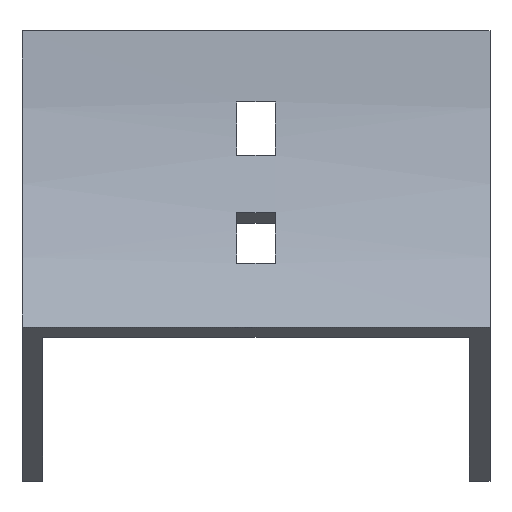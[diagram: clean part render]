
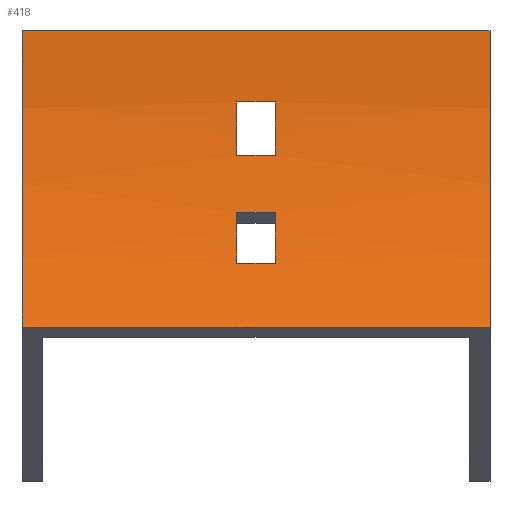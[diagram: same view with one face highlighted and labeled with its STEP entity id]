
A CAD part, front view. The second image highlights one B-rep face of the part: STEP entity #418.
In plain terms, the highlighted cylindrical face has radius 100 mm (diameter 200 mm), a partial arc.
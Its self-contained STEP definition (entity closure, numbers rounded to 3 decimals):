
#13 = CARTESIAN_POINT ( 'NONE',  ( -3.25, -8.023, -39.246 ) ) ;
#24 = CARTESIAN_POINT ( 'NONE',  ( -3.25, -4.829, -30.699 ) ) ;
#26 = DIRECTION ( 'NONE',  ( -1., 0., 0. ) ) ;
#35 = VECTOR ( 'NONE', #742, 1000. ) ;
#41 = DIRECTION ( 'NONE',  ( -1., 0., 0. ) ) ;
#50 = DIRECTION ( 'NONE',  ( -1., 0., 0. ) ) ;
#53 = CARTESIAN_POINT ( 'NONE',  ( 39.5, -13.397, -50. ) ) ;
#71 = EDGE_CURVE ( 'NONE', #380, #452, #635, .T. ) ;
#72 = ORIENTED_EDGE ( 'NONE', *, *, #889, .F. ) ;
#77 = CARTESIAN_POINT ( 'NONE',  ( 39.5, 0., 0. ) ) ;
#78 = VERTEX_POINT ( 'NONE', #562 ) ;
#81 = DIRECTION ( 'NONE',  ( -1., 0., 0. ) ) ;
#88 = VERTEX_POINT ( 'NONE', #24 ) ;
#95 = DIRECTION ( 'NONE',  ( 0., 0., 1. ) ) ;
#98 = ORIENTED_EDGE ( 'NONE', *, *, #122, .F. ) ;
#106 = EDGE_CURVE ( 'NONE', #360, #110, #357, .T. ) ;
#110 = VERTEX_POINT ( 'NONE', #532 ) ;
#122 = EDGE_CURVE ( 'NONE', #799, #996, #1080, .T. ) ;
#131 = CYLINDRICAL_SURFACE ( 'NONE', #377, 100. ) ;
#133 = LINE ( 'NONE', #483, #35 ) ;
#164 = CIRCLE ( 'NONE', #940, 100. ) ;
#177 = CARTESIAN_POINT ( 'NONE',  ( 39.5, -100., 0. ) ) ;
#181 = CIRCLE ( 'NONE', #1022, 100. ) ;
#187 = DIRECTION ( 'NONE',  ( 1., 0., 0. ) ) ;
#188 = AXIS2_PLACEMENT_3D ( 'NONE', #1113, #41, #1103 ) ;
#215 = ORIENTED_EDGE ( 'NONE', *, *, #716, .F. ) ;
#216 = FACE_BOUND ( 'NONE', #972, .T. ) ;
#220 = VECTOR ( 'NONE', #326, 1000. ) ;
#246 = LINE ( 'NONE', #53, #745 ) ;
#264 = VECTOR ( 'NONE', #286, 1000. ) ;
#268 = CARTESIAN_POINT ( 'NONE',  ( 3.25, -100., 0. ) ) ;
#278 = CARTESIAN_POINT ( 'NONE',  ( 39.5, -8.023, -39.246 ) ) ;
#279 = CARTESIAN_POINT ( 'NONE',  ( 3.25, -2.23, -21. ) ) ;
#286 = DIRECTION ( 'NONE',  ( 1., 0., 0. ) ) ;
#299 = ORIENTED_EDGE ( 'NONE', *, *, #463, .F. ) ;
#305 = ORIENTED_EDGE ( 'NONE', *, *, #845, .T. ) ;
#316 = DIRECTION ( 'NONE',  ( 1., 0., 0. ) ) ;
#321 = CARTESIAN_POINT ( 'NONE',  ( 3.25, -100., 0. ) ) ;
#322 = DIRECTION ( 'NONE',  ( -1., 0., 0. ) ) ;
#326 = DIRECTION ( 'NONE',  ( -1., 0., 0. ) ) ;
#352 = CIRCLE ( 'NONE', #652, 100. ) ;
#357 = CIRCLE ( 'NONE', #1006, 100. ) ;
#360 = VERTEX_POINT ( 'NONE', #619 ) ;
#362 = DIRECTION ( 'NONE',  ( 1., 0., 0. ) ) ;
#366 = CARTESIAN_POINT ( 'NONE',  ( 3.25, -4.829, -30.699 ) ) ;
#377 = AXIS2_PLACEMENT_3D ( 'NONE', #486, #649, #401 ) ;
#379 = CARTESIAN_POINT ( 'NONE',  ( -3.25, -2.23, -21. ) ) ;
#380 = VERTEX_POINT ( 'NONE', #793 ) ;
#401 = DIRECTION ( 'NONE',  ( 0., 0., 1. ) ) ;
#418 = ADVANCED_FACE ( 'NONE', ( #839, #216, #574 ), #131, .F. ) ;
#444 = VECTOR ( 'NONE', #50, 1000. ) ;
#452 = VERTEX_POINT ( 'NONE', #1000 ) ;
#457 = ORIENTED_EDGE ( 'NONE', *, *, #106, .F. ) ;
#463 = EDGE_CURVE ( 'NONE', #88, #799, #701, .T. ) ;
#483 = CARTESIAN_POINT ( 'NONE',  ( 39.5, -4.829, -30.699 ) ) ;
#486 = CARTESIAN_POINT ( 'NONE',  ( 39.5, -100., 0. ) ) ;
#491 = ORIENTED_EDGE ( 'NONE', *, *, #522, .T. ) ;
#504 = EDGE_CURVE ( 'NONE', #530, #380, #1136, .T. ) ;
#522 = EDGE_CURVE ( 'NONE', #1126, #78, #181, .T. ) ;
#530 = VERTEX_POINT ( 'NONE', #379 ) ;
#532 = CARTESIAN_POINT ( 'NONE',  ( 39.5, -13.397, -50. ) ) ;
#543 = DIRECTION ( 'NONE',  ( 0., 0., 1. ) ) ;
#562 = CARTESIAN_POINT ( 'NONE',  ( -39.5, -13.397, -50. ) ) ;
#571 = CARTESIAN_POINT ( 'NONE',  ( 3.25, -8.023, -39.246 ) ) ;
#574 = FACE_BOUND ( 'NONE', #921, .T. ) ;
#608 = EDGE_CURVE ( 'NONE', #360, #1126, #871, .T. ) ;
#619 = CARTESIAN_POINT ( 'NONE',  ( 39.5, 0., 0. ) ) ;
#626 = EDGE_CURVE ( 'NONE', #110, #78, #246, .T. ) ;
#635 = LINE ( 'NONE', #714, #264 ) ;
#649 = DIRECTION ( 'NONE',  ( -1., 0., 0. ) ) ;
#652 = AXIS2_PLACEMENT_3D ( 'NONE', #321, #81, #681 ) ;
#657 = DIRECTION ( 'NONE',  ( 0., 0., 1. ) ) ;
#666 = CARTESIAN_POINT ( 'NONE',  ( -3.25, -100., 0. ) ) ;
#681 = DIRECTION ( 'NONE',  ( 0., 0., -1. ) ) ;
#684 = VERTEX_POINT ( 'NONE', #366 ) ;
#698 = VERTEX_POINT ( 'NONE', #279 ) ;
#701 = CIRCLE ( 'NONE', #188, 100. ) ;
#709 = AXIS2_PLACEMENT_3D ( 'NONE', #666, #316, #657 ) ;
#714 = CARTESIAN_POINT ( 'NONE',  ( 39.5, -0.723, -12. ) ) ;
#716 = EDGE_CURVE ( 'NONE', #996, #684, #164, .T. ) ;
#738 = DIRECTION ( 'NONE',  ( -1., 0., 0. ) ) ;
#742 = DIRECTION ( 'NONE',  ( -1., 0., 0. ) ) ;
#745 = VECTOR ( 'NONE', #322, 1000. ) ;
#775 = ORIENTED_EDGE ( 'NONE', *, *, #1035, .T. ) ;
#793 = CARTESIAN_POINT ( 'NONE',  ( -3.25, -0.723, -12. ) ) ;
#799 = VERTEX_POINT ( 'NONE', #13 ) ;
#800 = ORIENTED_EDGE ( 'NONE', *, *, #626, .F. ) ;
#808 = VECTOR ( 'NONE', #187, 1000. ) ;
#812 = CARTESIAN_POINT ( 'NONE',  ( -39.5, 0., 0. ) ) ;
#839 = FACE_OUTER_BOUND ( 'NONE', #987, .T. ) ;
#845 = EDGE_CURVE ( 'NONE', #698, #530, #930, .T. ) ;
#871 = LINE ( 'NONE', #77, #220 ) ;
#889 = EDGE_CURVE ( 'NONE', #684, #88, #133, .T. ) ;
#906 = CARTESIAN_POINT ( 'NONE',  ( -39.5, -100., 0. ) ) ;
#916 = DIRECTION ( 'NONE',  ( 0., 0., 1. ) ) ;
#921 = EDGE_LOOP ( 'NONE', ( #299, #72, #215, #98 ) ) ;
#930 = LINE ( 'NONE', #1044, #444 ) ;
#940 = AXIS2_PLACEMENT_3D ( 'NONE', #268, #362, #543 ) ;
#972 = EDGE_LOOP ( 'NONE', ( #305, #1039, #1075, #775 ) ) ;
#987 = EDGE_LOOP ( 'NONE', ( #491, #800, #457, #1117 ) ) ;
#996 = VERTEX_POINT ( 'NONE', #571 ) ;
#1000 = CARTESIAN_POINT ( 'NONE',  ( 3.25, -0.723, -12. ) ) ;
#1006 = AXIS2_PLACEMENT_3D ( 'NONE', #177, #738, #95 ) ;
#1022 = AXIS2_PLACEMENT_3D ( 'NONE', #906, #26, #916 ) ;
#1035 = EDGE_CURVE ( 'NONE', #452, #698, #352, .T. ) ;
#1039 = ORIENTED_EDGE ( 'NONE', *, *, #504, .T. ) ;
#1044 = CARTESIAN_POINT ( 'NONE',  ( 39.5, -2.23, -21. ) ) ;
#1075 = ORIENTED_EDGE ( 'NONE', *, *, #71, .T. ) ;
#1080 = LINE ( 'NONE', #278, #808 ) ;
#1103 = DIRECTION ( 'NONE',  ( 0., 0., -1. ) ) ;
#1113 = CARTESIAN_POINT ( 'NONE',  ( -3.25, -100., 0. ) ) ;
#1117 = ORIENTED_EDGE ( 'NONE', *, *, #608, .T. ) ;
#1126 = VERTEX_POINT ( 'NONE', #812 ) ;
#1136 = CIRCLE ( 'NONE', #709, 100. ) ;
